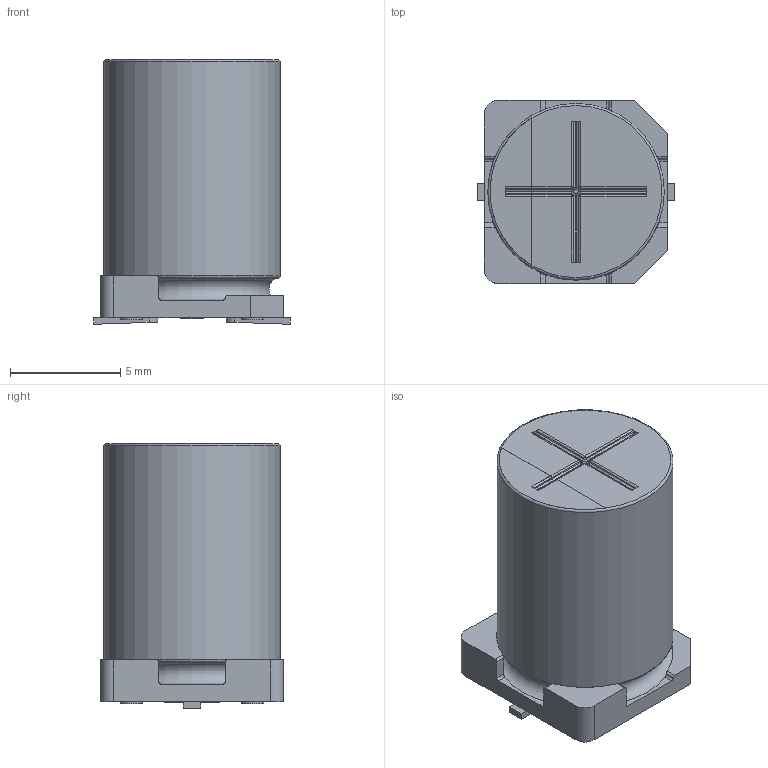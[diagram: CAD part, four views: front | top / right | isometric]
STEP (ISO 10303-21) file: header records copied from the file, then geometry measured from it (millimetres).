
FILE_DESCRIPTION(/* description */ (''),/* implementation_level */ '2;1');
FILE_NAME(/* name */ '8x12_Chip.stp',/* time_stamp */ '2017-09-11T19:35:09+09:00',/* author */ (''),/* organization */ (''),/* preprocessor_version */ 'ST-DEVELOPER v16',/* originating_system */ 'SIEMENS PLM Software NX 11.0',/* authorisation */ '');
FILE_SCHEMA (('AUTOMOTIVE_DESIGN { 1 0 10303 214 3 1 1 1 }'));
Length unit declared in the file: millimetre
Products named in the file (1): 8x12_Chip_0
Bounding box: 8.9 x 8.3 x 12 mm (x, y, z)
Volume: 602.4 mm3; surface area: 599 mm2
Topology: 5 solids, 5 shells, 132 faces, 330 edges, 210 vertices
Faces by surface type: plane 61, cylinder 60, sphere 4, bspline 4, torus 3
Full cylindrical faces by diameter (mm): 1 x4, 8 x1
Entity records: 4212 total; most frequent: CARTESIAN_POINT 919, DIRECTION 670, ORIENTED_EDGE 634, EDGE_CURVE 317, AXIS2_PLACEMENT_3D 240, VERTEX_POINT 209, LINE 190, VECTOR 190
